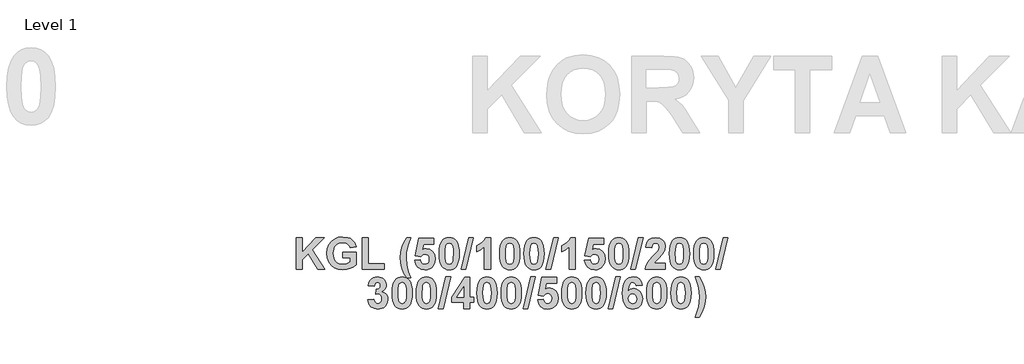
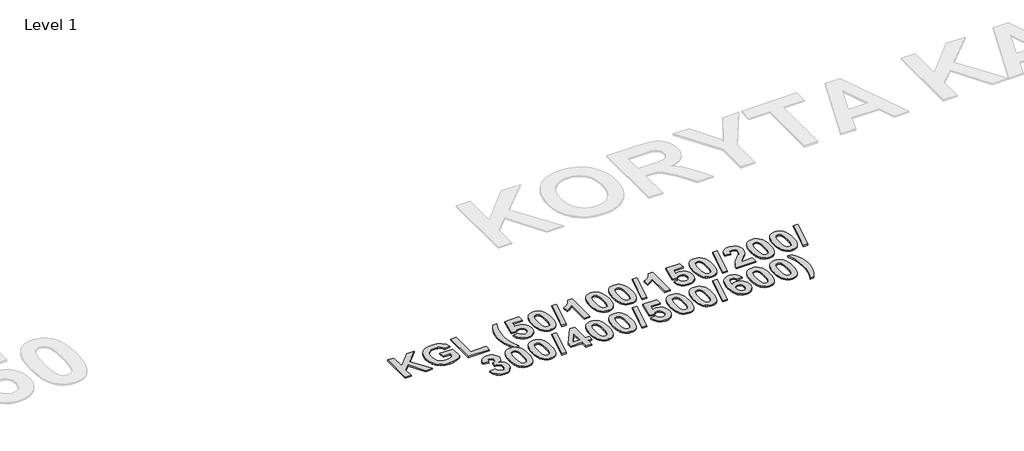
# One storey, part 25 of 42: 1 proxy.
"""IFC4 building model written with IfcOpenShell, lengths in millimetres."""

from ifc_helpers import new_model, si_unit, origin, origin_with_axes, place, context, project, spatial, polyline, outline, extrude, element, save

model = new_model("IFC4")

# Units and contexts
model_context = context("Model", 3, world=origin())
ifc_project = project(units=[si_unit("LENGTHUNIT", "METRE", prefix="MILLI")], contexts=[model_context])

# Site, building, storey
site = spatial("IfcSite", under=ifc_project)
building = spatial("IfcBuilding", under=site)
storey = spatial("IfcBuildingStorey", under=building, Name="Level 1", Elevation=0.0)

# Proxy
placement = place(None, origin())
element("IfcBuildingElementProxy", 1, Name="300mm Arial 2", ObjectType="300mm Arial 2", at=placement, inside=storey, context=model_context, shape_type="SweptSolid", body=[
    extrude(outline(polyline([(-16754.0265891, 21266.2760859), (-16754.0265891, 21521.3409359), (-16705.4428082, 21521.3409359), (-16705.4428082, 21405.0688143), (-16596.0027808, 21521.3409359), (-16529.3266022, 21521.3409359), (-16625.8615628, 21423.9203335), (-16525.2779538, 21266.2760859), (-16582.0855519, 21266.2760859), (-16657.4283684, 21391.9739671), (-16705.4428082, 21343.4534463), (-16705.4428082, 21266.2760859), (-16754.0265891, 21266.2760859)])), origin_with_axes(), (0.0, 0.0, 1.0), 10.0),
    extrude(outline(polyline([(-16381.5509352, 21359.3949994), (-16381.5509352, 21403.930132), (-16272.237428, 21403.930132), (-16272.237428, 21302.2078406), (-16291.7531786, 21287.2863571), (-16318.417324, 21274.2784926), (-16348.8454472, 21265.2402013), (-16379.6531312, 21262.2274375), (-16416.4863428, 21266.4184212), (-16448.2903739, 21278.9913724), (-16473.9423572, 21299.3532272), (-16492.3194253, 21326.9109219), (-16503.3741333, 21359.434537), (-16507.059036, 21394.6941528), (-16502.8917748, 21432.2153182), (-16490.3899913, 21465.3240895), (-16469.8541712, 21492.6287438), (-16441.5847999, 21512.737558), (-16414.0982728, 21522.2265778), (-16380.6020332, 21525.3895843), (-16338.399618, 21520.2813287), (-16321.1829779, 21513.8960092), (-16306.5560493, 21504.9565619), (-16284.6443213, 21480.6172263), (-16272.237428, 21448.4652645), (-16320.821209, 21440.3679677), (-16328.997581, 21457.1714401), (-16342.1398733, 21470.0053393), (-16359.7103748, 21478.1421737), (-16381.1713744, 21480.8544518), (-16412.9754055, 21475.5564158), (-16426.1611891, 21468.9338708), (-16437.5361515, 21459.6623078), (-16446.6970093, 21447.7812643), (-16453.2404791, 21433.330278), (-16458.475255, 21396.718477), (-16453.2721092, 21357.3627677), (-16446.7681769, 21341.9015962), (-16437.6626718, 21329.2515468), (-16426.4458597, 21319.4126195), (-16413.6080068, 21312.3848142), (-16383.0691783, 21306.7625701), (-16349.6361989, 21312.9304329), (-16320.821209, 21327.891454), (-16320.821209, 21359.3949994), (-16381.5509352, 21359.3949994)])), origin_with_axes(), (0.0, 0.0, 1.0), 10.0),
    extrude(outline(polyline([(-16223.6536471, 21266.2760859), (-16223.6536471, 21521.3409359), (-16175.0698661, 21521.3409359), (-16175.0698661, 21310.8112185), (-16045.5131169, 21310.8112185), (-16045.5131169, 21266.2760859), (-16223.6536471, 21266.2760859)])), origin_with_axes(), (0.0, 0.0, 1.0), 10.0),
    extrude(outline(polyline([(-15834.9833995, 21197.4490629), (-15867.3725868, 21197.4490629), (-15890.0434364, 21237.1210729), (-15906.5622382, 21278.327141), (-15916.6443217, 21319.6280993), (-15920.0050161, 21359.5847798), (-15915.8931076, 21406.9824333), (-15903.557382, 21451.7547913), (-15887.3627883, 21488.0344767), (-15867.3725868, 21521.3409359), (-15834.9833995, 21521.3409359), (-15852.5459935, 21474.1014328), (-15863.608609, 21434.4847754), (-15869.4680786, 21397.6041188), (-15871.4212352, 21358.5726177), (-15866.7399855, 21301.92317), (-15853.8981788, 21246.8552256), (-15834.9833995, 21197.4490629)])), origin_with_axes(), (0.0, 0.0, 1.0), 10.0),
    extrude(outline(polyline([(-15802.5942122, 21338.0763351), (-15758.0590796, 21343.2004058), (-15753.915541, 21328.1286795), (-15745.6600939, 21316.5678904), (-15734.5579408, 21309.2139001), (-15721.8742845, 21306.7625701), (-15707.6802925, 21309.364143), (-15695.8427404, 21317.1688617), (-15687.8482413, 21330.2083563), (-15685.1834082, 21348.5142568), (-15687.6584609, 21365.6735675), (-15695.0836188, 21377.9302179), (-15706.47835, 21385.2842082), (-15720.8621224, 21387.7355383), (-15739.6820115, 21382.6747278), (-15756.4143162, 21367.4922962), (-15798.5455638, 21373.7550493), (-15770.2050249, 21517.2922875), (-15648.7455725, 21517.2922875), (-15648.7455725, 21468.7085066), (-15730.9204833, 21468.7085066), (-15740.7258036, 21422.3388302), (-15725.2428865, 21429.7877107), (-15709.4120386, 21432.2706708), (-15681.2929101, 21426.5219064), (-15657.7917713, 21409.2756131), (-15641.8976633, 21382.8566007), (-15636.5996273, 21349.589679), (-15641.0120214, 21320.6639839), (-15654.2492039, 21294.9961856), (-15667.4666177, 21280.6598583), (-15683.0167487, 21270.4196245), (-15700.8995971, 21264.2754843), (-15721.1151629, 21262.2274375), (-15752.1205348, 21267.3673232), (-15776.8157086, 21282.7869802), (-15794.0303719, 21306.8890903), (-15802.5942122, 21338.0763351)])), origin_with_axes(), (0.0, 0.0, 1.0), 10.0),
    extrude(outline(polyline([(-15527.2861201, 21521.3409359), (-15510.1544858, 21519.6961725), (-15495.0076381, 21514.7618822), (-15481.845577, 21506.5380652), (-15470.6683025, 21495.0247212), (-15460.0129241, 21476.8967398), (-15452.4019395, 21453.6367802), (-15447.8353488, 21425.2448425), (-15446.3131519, 21391.7209266), (-15447.8432563, 21358.2286407), (-15452.4335696, 21329.8050729), (-15460.0840917, 21306.4502232), (-15470.7948228, 21288.1640914), (-15481.9167446, 21276.8168053), (-15495.0392681, 21268.711601), (-15510.1623933, 21263.8484784), (-15527.2861201, 21262.2274375), (-15544.5936967, 21264.0066287), (-15560.1418509, 21269.3442023), (-15573.9305827, 21278.2401583), (-15585.9598921, 21290.6944967), (-15595.7157904, 21307.7154258), (-15602.6842893, 21330.311154), (-15606.8653886, 21358.4816813), (-15608.2590884, 21392.2270076), (-15606.728984, 21425.5532356), (-15602.1386707, 21453.8581907), (-15594.4881485, 21477.1418728), (-15583.7774175, 21495.404282), (-15572.6554957, 21506.7515681), (-15559.5329721, 21514.8567724), (-15544.409847, 21519.7198951), (-15527.2861201, 21521.3409359)]), holes=[polyline([(-15527.2861201, 21476.8058034), (-15543.4807138, 21471.4603223), (-15549.8067269, 21463.9877192), (-15554.4879767, 21452.2608724), (-15558.3784747, 21428.1113172), (-15559.6753074, 21391.7209266), (-15558.52081, 21355.8128945), (-15555.0573178, 21333.2369351), (-15549.8304495, 21319.9839375), (-15543.3858236, 21312.044791), (-15527.2861201, 21306.7625701), (-15511.0915265, 21312.1080512), (-15504.7655133, 21319.5806542), (-15500.0842636, 21331.3075011), (-15496.1937655, 21355.330536), (-15494.8969328, 21391.7209266), (-15496.0514302, 21427.5894211), (-15499.5149224, 21450.173288), (-15504.7417908, 21463.4658232), (-15511.1864167, 21471.4603223), (-15527.2861201, 21476.8058034)])]), origin_with_axes(), (0.0, 0.0, 1.0), 10.0),
    extrude(outline(polyline([(-15431.0042001, 21266.2760859), (-15370.2744739, 21521.3409359), (-15332.9509963, 21521.3409359), (-15393.6807225, 21266.2760859), (-15431.0042001, 21266.2760859)])), origin_with_axes(), (0.0, 0.0, 1.0), 10.0),
    extrude(outline(polyline([(-15195.2969503, 21266.2760859), (-15243.8807313, 21266.2760859), (-15243.8807313, 21448.5917848), (-15271.9365996, 21424.7110851), (-15304.6104574, 21407.9787804), (-15304.6104574, 21456.5625613), (-15285.142152, 21465.6482977), (-15264.0607132, 21480.3800008), (-15245.6045698, 21499.3975778), (-15234.0121508, 21521.3409359), (-15195.2969503, 21521.3409359), (-15195.2969503, 21266.2760859)])), origin_with_axes(), (0.0, 0.0, 1.0), 10.0),
    extrude(outline(polyline([(-15041.4483106, 21521.3409359), (-15024.3166763, 21519.6961725), (-15009.1698286, 21514.7618822), (-14996.0077675, 21506.5380652), (-14984.830493, 21495.0247212), (-14974.1751146, 21476.8967398), (-14966.56413, 21453.6367802), (-14961.9975393, 21425.2448425), (-14960.4753424, 21391.7209266), (-14962.0054468, 21358.2286407), (-14966.5957601, 21329.8050729), (-14974.2462822, 21306.4502232), (-14984.9570133, 21288.1640914), (-14996.0789351, 21276.8168053), (-15009.2014586, 21268.711601), (-15024.3245838, 21263.8484784), (-15041.4483106, 21262.2274375), (-15058.7558872, 21264.0066287), (-15074.3040414, 21269.3442023), (-15088.0927732, 21278.2401583), (-15100.1220825, 21290.6944967), (-15109.8779809, 21307.7154258), (-15116.8464798, 21330.311154), (-15121.0275791, 21358.4816813), (-15122.4212789, 21392.2270076), (-15120.8911745, 21425.5532356), (-15116.3008612, 21453.8581907), (-15108.650339, 21477.1418728), (-15097.939608, 21495.404282), (-15086.8176862, 21506.7515681), (-15073.6951626, 21514.8567724), (-15058.5720375, 21519.7198951), (-15041.4483106, 21521.3409359)]), holes=[polyline([(-15041.4483106, 21476.8058034), (-15057.6429043, 21471.4603223), (-15063.9689174, 21463.9877192), (-15068.6501672, 21452.2608724), (-15072.5406652, 21428.1113172), (-15073.8374979, 21391.7209266), (-15072.6830005, 21355.8128945), (-15069.2195083, 21333.2369351), (-15063.99264, 21319.9839375), (-15057.5480141, 21312.044791), (-15041.4483106, 21306.7625701), (-15025.253717, 21312.1080512), (-15018.9277038, 21319.5806542), (-15014.2464541, 21331.3075011), (-15010.355956, 21355.330536), (-15009.0591233, 21391.7209266), (-15010.2136207, 21427.5894211), (-15013.6771129, 21450.173288), (-15018.9039813, 21463.4658232), (-15025.3486072, 21471.4603223), (-15041.4483106, 21476.8058034)])]), origin_with_axes(), (0.0, 0.0, 1.0), 10.0),
    extrude(outline(polyline([(-14847.1131868, 21521.3409359), (-14829.9815525, 21519.6961725), (-14814.8347048, 21514.7618822), (-14801.6726437, 21506.5380652), (-14790.4953692, 21495.0247212), (-14779.8399908, 21476.8967398), (-14772.2290062, 21453.6367802), (-14767.6624155, 21425.2448425), (-14766.1402186, 21391.7209266), (-14767.670323, 21358.2286407), (-14772.2606363, 21329.8050729), (-14779.9111584, 21306.4502232), (-14790.6218894, 21288.1640914), (-14801.7438113, 21276.8168053), (-14814.8663348, 21268.711601), (-14829.98946, 21263.8484784), (-14847.1131868, 21262.2274375), (-14864.4207634, 21264.0066287), (-14879.9689176, 21269.3442023), (-14893.7576494, 21278.2401583), (-14905.7869587, 21290.6944967), (-14915.5428571, 21307.7154258), (-14922.511356, 21330.311154), (-14926.6924553, 21358.4816813), (-14928.0861551, 21392.2270076), (-14926.5560507, 21425.5532356), (-14921.9657374, 21453.8581907), (-14914.3152152, 21477.1418728), (-14903.6044842, 21495.404282), (-14892.4825624, 21506.7515681), (-14879.3600388, 21514.8567724), (-14864.2369137, 21519.7198951), (-14847.1131868, 21521.3409359)]), holes=[polyline([(-14847.1131868, 21476.8058034), (-14863.3077805, 21471.4603223), (-14869.6337936, 21463.9877192), (-14874.3150434, 21452.2608724), (-14878.2055414, 21428.1113172), (-14879.5023741, 21391.7209266), (-14878.3478767, 21355.8128945), (-14874.8843845, 21333.2369351), (-14869.6575162, 21319.9839375), (-14863.2128903, 21312.044791), (-14847.1131868, 21306.7625701), (-14830.9185932, 21312.1080512), (-14824.59258, 21319.5806542), (-14819.9113303, 21331.3075011), (-14816.0208322, 21355.330536), (-14814.7239995, 21391.7209266), (-14815.8784969, 21427.5894211), (-14819.3419891, 21450.173288), (-14824.5688575, 21463.4658232), (-14831.0134834, 21471.4603223), (-14847.1131868, 21476.8058034)])]), origin_with_axes(), (0.0, 0.0, 1.0), 10.0),
    extrude(outline(polyline([(-14750.8312668, 21266.2760859), (-14690.1015406, 21521.3409359), (-14652.778063, 21521.3409359), (-14713.5077892, 21266.2760859), (-14750.8312668, 21266.2760859)])), origin_with_axes(), (0.0, 0.0, 1.0), 10.0),
    extrude(outline(polyline([(-14515.124017, 21266.2760859), (-14563.707798, 21266.2760859), (-14563.707798, 21448.5917848), (-14591.7636662, 21424.7110851), (-14624.4375241, 21407.9787804), (-14624.4375241, 21456.5625613), (-14604.9692187, 21465.6482977), (-14583.8877799, 21480.3800008), (-14565.4316365, 21499.3975778), (-14553.8392174, 21521.3409359), (-14515.124017, 21521.3409359), (-14515.124017, 21266.2760859)])), origin_with_axes(), (0.0, 0.0, 1.0), 10.0),
    extrude(outline(polyline([(-14442.2483456, 21338.0763351), (-14397.713213, 21343.2004058), (-14393.5696744, 21328.1286795), (-14385.3142273, 21316.5678904), (-14374.2120742, 21309.2139001), (-14361.5284179, 21306.7625701), (-14347.3344259, 21309.364143), (-14335.4968738, 21317.1688617), (-14327.5023747, 21330.2083563), (-14324.8375416, 21348.5142568), (-14327.3125943, 21365.6735675), (-14334.7377522, 21377.9302179), (-14346.1324834, 21385.2842082), (-14360.5162557, 21387.7355383), (-14379.3361449, 21382.6747278), (-14396.0684496, 21367.4922962), (-14438.1996972, 21373.7550493), (-14409.8591583, 21517.2922875), (-14288.3997059, 21517.2922875), (-14288.3997059, 21468.7085066), (-14370.5746166, 21468.7085066), (-14380.379937, 21422.3388302), (-14364.8970199, 21429.7877107), (-14349.066172, 21432.2706708), (-14320.9470435, 21426.5219064), (-14297.4459047, 21409.2756131), (-14281.5517967, 21382.8566007), (-14276.2537607, 21349.589679), (-14280.6661548, 21320.6639839), (-14293.9033373, 21294.9961856), (-14307.1207511, 21280.6598583), (-14322.6708821, 21270.4196245), (-14340.5537305, 21264.2754843), (-14360.7692963, 21262.2274375), (-14391.7746682, 21267.3673232), (-14416.469842, 21282.7869802), (-14433.6845053, 21306.8890903), (-14442.2483456, 21338.0763351)])), origin_with_axes(), (0.0, 0.0, 1.0), 10.0),
    extrude(outline(polyline([(-14166.9402535, 21521.3409359), (-14149.8086192, 21519.6961725), (-14134.6617715, 21514.7618822), (-14121.4997104, 21506.5380652), (-14110.3224359, 21495.0247212), (-14099.6670575, 21476.8967398), (-14092.0560729, 21453.6367802), (-14087.4894822, 21425.2448425), (-14085.9672853, 21391.7209266), (-14087.4973897, 21358.2286407), (-14092.087703, 21329.8050729), (-14099.7382251, 21306.4502232), (-14110.4489561, 21288.1640914), (-14121.570878, 21276.8168053), (-14134.6934015, 21268.711601), (-14149.8165267, 21263.8484784), (-14166.9402535, 21262.2274375), (-14184.2478301, 21264.0066287), (-14199.7959843, 21269.3442023), (-14213.5847161, 21278.2401583), (-14225.6140254, 21290.6944967), (-14235.3699238, 21307.7154258), (-14242.3384227, 21330.311154), (-14246.519522, 21358.4816813), (-14247.9132218, 21392.2270076), (-14246.3831173, 21425.5532356), (-14241.7928041, 21453.8581907), (-14234.1422819, 21477.1418728), (-14223.4315509, 21495.404282), (-14212.309629, 21506.7515681), (-14199.1871055, 21514.8567724), (-14184.0639804, 21519.7198951), (-14166.9402535, 21521.3409359)]), holes=[polyline([(-14166.9402535, 21476.8058034), (-14183.1348472, 21471.4603223), (-14189.4608603, 21463.9877192), (-14194.14211, 21452.2608724), (-14198.0326081, 21428.1113172), (-14199.3294408, 21391.7209266), (-14198.1749434, 21355.8128945), (-14194.7114512, 21333.2369351), (-14189.4845829, 21319.9839375), (-14183.039957, 21312.044791), (-14166.9402535, 21306.7625701), (-14150.7456599, 21312.1080512), (-14144.4196467, 21319.5806542), (-14139.738397, 21331.3075011), (-14135.8478989, 21355.330536), (-14134.5510662, 21391.7209266), (-14135.7055636, 21427.5894211), (-14139.1690558, 21450.173288), (-14144.3959242, 21463.4658232), (-14150.8405501, 21471.4603223), (-14166.9402535, 21476.8058034)])]), origin_with_axes(), (0.0, 0.0, 1.0), 10.0),
    extrude(outline(polyline([(-14070.6583335, 21266.2760859), (-14009.9286073, 21521.3409359), (-13972.6051297, 21521.3409359), (-14033.3348559, 21266.2760859), (-14070.6583335, 21266.2760859)])), origin_with_axes(), (0.0, 0.0, 1.0), 10.0),
    extrude(outline(polyline([(-13794.4645996, 21314.8598669), (-13794.4645996, 21266.2760859), (-13956.4105361, 21266.2760859), (-13951.2390203, 21290.7814793), (-13940.9118039, 21313.942595), (-13921.728169, 21340.1243819), (-13889.9873981, 21373.6917891), (-13852.41088, 21414.4313138), (-13845.3890054, 21429.1392943), (-13843.0483805, 21443.6574945), (-13845.0173521, 21457.8040414), (-13850.9242669, 21468.2340556), (-13860.2946739, 21474.6628664), (-13872.654122, 21476.8058034), (-13884.9265875, 21474.6944965), (-13894.4156073, 21468.3605758), (-13900.8048805, 21457.13981), (-13903.7781067, 21440.3679677), (-13952.3618877, 21444.7961769), (-13943.7585098, 21479.9450874), (-13936.1356639, 21493.1842468), (-13926.2987135, 21503.5332089), (-13901.6747073, 21516.8890042), (-13871.5786998, 21521.3409359), (-13839.442553, 21516.3512931), (-13815.0241423, 21501.3823644), (-13799.6044853, 21478.9961854), (-13794.4645996, 21451.7547913), (-13800.0947513, 21419.6186446), (-13817.9341083, 21387.6722782), (-13848.1408211, 21355.7891719), (-13875.8803887, 21328.1444945), (-13884.9898477, 21314.8598669), (-13794.4645996, 21314.8598669)])), origin_with_axes(), (0.0, 0.0, 1.0), 10.0),
    extrude(outline(polyline([(-13681.102444, 21521.3409359), (-13663.9708097, 21519.6961725), (-13648.823962, 21514.7618822), (-13635.6619009, 21506.5380652), (-13624.4846264, 21495.0247212), (-13613.829248, 21476.8967398), (-13606.2182634, 21453.6367802), (-13601.6516727, 21425.2448425), (-13600.1294758, 21391.7209266), (-13601.6595802, 21358.2286407), (-13606.2498935, 21329.8050729), (-13613.9004156, 21306.4502232), (-13624.6111466, 21288.1640914), (-13635.7330685, 21276.8168053), (-13648.855592, 21268.711601), (-13663.9787172, 21263.8484784), (-13681.102444, 21262.2274375), (-13698.4100206, 21264.0066287), (-13713.9581748, 21269.3442023), (-13727.7469066, 21278.2401583), (-13739.7762159, 21290.6944967), (-13749.5321143, 21307.7154258), (-13756.5006132, 21330.311154), (-13760.6817125, 21358.4816813), (-13762.0754123, 21392.2270076), (-13760.5453078, 21425.5532356), (-13755.9549946, 21453.8581907), (-13748.3044724, 21477.1418728), (-13737.5937414, 21495.404282), (-13726.4718195, 21506.7515681), (-13713.349296, 21514.8567724), (-13698.2261709, 21519.7198951), (-13681.102444, 21521.3409359)]), holes=[polyline([(-13681.102444, 21476.8058034), (-13697.2970377, 21471.4603223), (-13703.6230508, 21463.9877192), (-13708.3043005, 21452.2608724), (-13712.1947986, 21428.1113172), (-13713.4916313, 21391.7209266), (-13712.3371339, 21355.8128945), (-13708.8736417, 21333.2369351), (-13703.6467734, 21319.9839375), (-13697.2021475, 21312.044791), (-13681.102444, 21306.7625701), (-13664.9078504, 21312.1080512), (-13658.5818372, 21319.5806542), (-13653.9005875, 21331.3075011), (-13650.0100894, 21355.330536), (-13648.7132567, 21391.7209266), (-13649.8677541, 21427.5894211), (-13653.3312463, 21450.173288), (-13658.5581147, 21463.4658232), (-13665.0027406, 21471.4603223), (-13681.102444, 21476.8058034)])]), origin_with_axes(), (0.0, 0.0, 1.0), 10.0),
    extrude(outline(polyline([(-13486.7673202, 21521.3409359), (-13469.6356859, 21519.6961725), (-13454.4888382, 21514.7618822), (-13441.3267771, 21506.5380652), (-13430.1495026, 21495.0247212), (-13419.4941242, 21476.8967398), (-13411.8831396, 21453.6367802), (-13407.3165489, 21425.2448425), (-13405.794352, 21391.7209266), (-13407.3244564, 21358.2286407), (-13411.9147697, 21329.8050729), (-13419.5652918, 21306.4502232), (-13430.2760228, 21288.1640914), (-13441.3979447, 21276.8168053), (-13454.5204682, 21268.711601), (-13469.6435934, 21263.8484784), (-13486.7673202, 21262.2274375), (-13504.0748968, 21264.0066287), (-13519.623051, 21269.3442023), (-13533.4117828, 21278.2401583), (-13545.4410921, 21290.6944967), (-13555.1969905, 21307.7154258), (-13562.1654894, 21330.311154), (-13566.3465887, 21358.4816813), (-13567.7402885, 21392.2270076), (-13566.210184, 21425.5532356), (-13561.6198708, 21453.8581907), (-13553.9693486, 21477.1418728), (-13543.2586176, 21495.404282), (-13532.1366957, 21506.7515681), (-13519.0141722, 21514.8567724), (-13503.8910471, 21519.7198951), (-13486.7673202, 21521.3409359)]), holes=[polyline([(-13486.7673202, 21476.8058034), (-13502.9619139, 21471.4603223), (-13509.287927, 21463.9877192), (-13513.9691767, 21452.2608724), (-13517.8596748, 21428.1113172), (-13519.1565075, 21391.7209266), (-13518.0020101, 21355.8128945), (-13514.5385179, 21333.2369351), (-13509.3116496, 21319.9839375), (-13502.8670237, 21312.044791), (-13486.7673202, 21306.7625701), (-13470.5727266, 21312.1080512), (-13464.2467134, 21319.5806542), (-13459.5654637, 21331.3075011), (-13455.6749656, 21355.330536), (-13454.3781329, 21391.7209266), (-13455.5326303, 21427.5894211), (-13458.9961225, 21450.173288), (-13464.2229909, 21463.4658232), (-13470.6676168, 21471.4603223), (-13486.7673202, 21476.8058034)])]), origin_with_axes(), (0.0, 0.0, 1.0), 10.0),
    extrude(outline(polyline([(-13390.4854002, 21266.2760859), (-13329.755674, 21521.3409359), (-13292.4321964, 21521.3409359), (-13353.1619226, 21266.2760859), (-13390.4854002, 21266.2760859)])), origin_with_axes(), (0.0, 0.0, 1.0), 10.0),
    extrude(outline(polyline([(-16179.1185146, 21022.7918795), (-16130.5347336, 21028.4220312), (-16126.7865708, 21012.7967787), (-16119.5907309, 21001.3466949), (-16109.7379654, 20994.3248203), (-16098.019026, 20991.9841955), (-16085.4460749, 20994.6648435), (-16075.0555983, 21002.7067877), (-16068.0811688, 21015.2876464), (-16065.756359, 21031.5850377), (-16067.8834809, 21047.0046948), (-16074.2648467, 21058.8501544), (-16083.7143288, 21066.3939251), (-16095.0457999, 21068.9085153), (-16114.34014, 21065.3026878), (-16110.1017111, 21105.346351), (-16096.2714649, 21107.0860046), (-16086.1577514, 21113.3171276), (-16079.966166, 21123.1857081), (-16077.9023042, 21135.8377344), (-16079.4442699, 21146.5840492), (-16084.0701671, 21154.910664), (-16091.2580995, 21160.2482376), (-16100.4861712, 21162.0274288), (-16109.8723932, 21159.963567), (-16117.7878171, 21153.7719816), (-16123.5523966, 21143.610823), (-16126.4860852, 21129.6382415), (-16175.0698661, 21136.9131566), (-16169.5108821, 21158.6509193), (-16161.6903483, 21175.5334668), (-16150.9677561, 21188.4464412), (-16136.7025964, 21198.2754841), (-16119.7093436, 21204.490792), (-16100.8024718, 21206.5625613), (-16070.1529381, 21200.8217044), (-16057.3664841, 21193.6456332), (-16046.2722385, 21183.5991336), (-16033.5569521, 21163.577302), (-16029.3185233, 21141.0883253), (-16031.5919343, 21125.1428184), (-16038.4121672, 21110.8974275), (-16049.7792221, 21098.3521527), (-16065.6930989, 21087.5069939), (-16045.8294176, 21079.9553157), (-16030.3939455, 21066.6627806), (-16020.4779199, 21048.799701), (-16017.1725781, 21027.5363893), (-16023.0320477, 20996.7682429), (-16040.6104568, 20970.8869416), (-16053.0470032, 20960.6328697), (-16066.9187639, 20953.3085326), (-16098.967928, 20947.4490629), (-16129.2299934, 20952.6601162), (-16153.846092, 20968.2932762), (-16171.0607553, 20992.3400337), (-16179.1185146, 21022.7918795)])), origin_with_axes(), (0.0, 0.0, 1.0), 10.0),
    extrude(outline(polyline([(-15903.8104225, 21206.5625613), (-15886.6787882, 21204.9177979), (-15871.5319404, 21199.9835076), (-15858.3698793, 21191.7596906), (-15847.1926049, 21180.2463466), (-15836.5372265, 21162.1183652), (-15828.9262419, 21138.8584056), (-15824.3596512, 21110.4664679), (-15822.8374542, 21076.942552), (-15824.3675587, 21043.4502661), (-15828.957872, 21015.0266983), (-15836.6083941, 20991.6718486), (-15847.3191251, 20973.3857168), (-15858.441047, 20962.0384307), (-15871.5635705, 20953.9332264), (-15886.6866957, 20949.0701038), (-15903.8104225, 20947.4490629), (-15921.1179991, 20949.2282541), (-15936.6661533, 20954.5658277), (-15950.454885, 20963.4617837), (-15962.4841944, 20975.9161221), (-15972.2400928, 20992.9370512), (-15979.2085917, 21015.5327794), (-15983.389691, 21043.7033067), (-15984.7833908, 21077.448633), (-15983.2532863, 21110.774861), (-15978.662973, 21139.0798161), (-15971.0124509, 21162.3634982), (-15960.3017199, 21180.6259074), (-15949.179798, 21191.9731935), (-15936.0572745, 21200.0783978), (-15920.9341493, 21204.9415205), (-15903.8104225, 21206.5625613)]), holes=[polyline([(-15903.8104225, 21162.0274288), (-15920.0050161, 21156.6819477), (-15926.3310293, 21149.2093446), (-15931.012279, 21137.4824978), (-15934.9027771, 21113.3329426), (-15936.1996098, 21076.942552), (-15935.0451124, 21041.0345199), (-15931.5816202, 21018.4585605), (-15926.3547518, 21005.2055629), (-15919.910126, 20997.2664164), (-15903.8104225, 20991.9841955), (-15887.6158288, 20997.3296766), (-15881.2898157, 21004.8022796), (-15876.608566, 21016.5291265), (-15872.7180679, 21040.5521614), (-15871.4212352, 21076.942552), (-15872.5757326, 21112.8110465), (-15876.0392248, 21135.3949134), (-15881.2660932, 21148.6874486), (-15887.710719, 21156.6819477), (-15903.8104225, 21162.0274288)])]), origin_with_axes(), (0.0, 0.0, 1.0), 10.0),
    extrude(outline(polyline([(-15709.4752987, 21206.5625613), (-15692.3436644, 21204.9177979), (-15677.1968166, 21199.9835076), (-15664.0347555, 21191.7596906), (-15652.8574811, 21180.2463466), (-15642.2021027, 21162.1183652), (-15634.5911181, 21138.8584056), (-15630.0245274, 21110.4664679), (-15628.5023304, 21076.942552), (-15630.0324349, 21043.4502661), (-15634.6227482, 21015.0266983), (-15642.2732703, 20991.6718486), (-15652.9840013, 20973.3857168), (-15664.1059232, 20962.0384307), (-15677.2284467, 20953.9332264), (-15692.3515719, 20949.0701038), (-15709.4752987, 20947.4490629), (-15726.7828753, 20949.2282541), (-15742.3310295, 20954.5658277), (-15756.1197612, 20963.4617837), (-15768.1490706, 20975.9161221), (-15777.904969, 20992.9370512), (-15784.8734679, 21015.5327794), (-15789.0545672, 21043.7033067), (-15790.4482669, 21077.448633), (-15788.9181625, 21110.774861), (-15784.3278492, 21139.0798161), (-15776.6773271, 21162.3634982), (-15765.9665961, 21180.6259074), (-15754.8446742, 21191.9731935), (-15741.7221507, 21200.0783978), (-15726.5990255, 21204.9415205), (-15709.4752987, 21206.5625613)]), holes=[polyline([(-15709.4752987, 21162.0274288), (-15725.6698923, 21156.6819477), (-15731.9959055, 21149.2093446), (-15736.6771552, 21137.4824978), (-15740.5676533, 21113.3329426), (-15741.864486, 21076.942552), (-15740.7099886, 21041.0345199), (-15737.2464964, 21018.4585605), (-15732.019628, 21005.2055629), (-15725.5750022, 20997.2664164), (-15709.4752987, 20991.9841955), (-15693.280705, 20997.3296766), (-15686.9546919, 21004.8022796), (-15682.2734422, 21016.5291265), (-15678.3829441, 21040.5521614), (-15677.0861114, 21076.942552), (-15678.2406088, 21112.8110465), (-15681.704101, 21135.3949134), (-15686.9309694, 21148.6874486), (-15693.3755952, 21156.6819477), (-15709.4752987, 21162.0274288)])]), origin_with_axes(), (0.0, 0.0, 1.0), 10.0),
    extrude(outline(polyline([(-15613.1933786, 20951.4977113), (-15552.4636525, 21206.5625613), (-15515.1401749, 21206.5625613), (-15575.8699011, 20951.4977113), (-15613.1933786, 20951.4977113)])), origin_with_axes(), (0.0, 0.0, 1.0), 10.0),
    extrude(outline(polyline([(-15409.8753162, 20951.4977113), (-15409.8753162, 21004.1301407), (-15507.0428781, 21004.1301407), (-15507.0428781, 21044.4268444), (-15403.4227828, 21202.5139129), (-15361.2915352, 21202.5139129), (-15361.2915352, 21044.6166248), (-15328.9023479, 21044.6166248), (-15328.9023479, 21004.1301407), (-15361.2915352, 21004.1301407), (-15361.2915352, 20951.4977113), (-15409.8753162, 20951.4977113)]), holes=[polyline([(-15409.8753162, 21044.6166248), (-15409.8753162, 21127.487397), (-15464.152509, 21044.6166248), (-15409.8753162, 21044.6166248)])]), origin_with_axes(), (0.0, 0.0, 1.0), 10.0),
    extrude(outline(polyline([(-15223.6374892, 21206.5625613), (-15206.5058548, 21204.9177979), (-15191.3590071, 21199.9835076), (-15178.196946, 21191.7596906), (-15167.0196716, 21180.2463466), (-15156.3642932, 21162.1183652), (-15148.7533086, 21138.8584056), (-15144.1867179, 21110.4664679), (-15142.6645209, 21076.942552), (-15144.1946254, 21043.4502661), (-15148.7849387, 21015.0266983), (-15156.4354608, 20991.6718486), (-15167.1461918, 20973.3857168), (-15178.2681137, 20962.0384307), (-15191.3906372, 20953.9332264), (-15206.5137624, 20949.0701038), (-15223.6374892, 20947.4490629), (-15240.9450658, 20949.2282541), (-15256.49322, 20954.5658277), (-15270.2819517, 20963.4617837), (-15282.3112611, 20975.9161221), (-15292.0671595, 20992.9370512), (-15299.0356584, 21015.5327794), (-15303.2167577, 21043.7033067), (-15304.6104574, 21077.448633), (-15303.080353, 21110.774861), (-15298.4900397, 21139.0798161), (-15290.8395176, 21162.3634982), (-15280.1287866, 21180.6259074), (-15269.0068647, 21191.9731935), (-15255.8843412, 21200.0783978), (-15240.761216, 21204.9415205), (-15223.6374892, 21206.5625613)]), holes=[polyline([(-15223.6374892, 21162.0274288), (-15239.8320828, 21156.6819477), (-15246.158096, 21149.2093446), (-15250.8393457, 21137.4824978), (-15254.7298438, 21113.3329426), (-15256.0266765, 21076.942552), (-15254.8721791, 21041.0345199), (-15251.4086869, 21018.4585605), (-15246.1818185, 21005.2055629), (-15239.7371926, 20997.2664164), (-15223.6374892, 20991.9841955), (-15207.4428955, 20997.3296766), (-15201.1168824, 21004.8022796), (-15196.4356327, 21016.5291265), (-15192.5451346, 21040.5521614), (-15191.2483019, 21076.942552), (-15192.4027993, 21112.8110465), (-15195.8662915, 21135.3949134), (-15201.0931599, 21148.6874486), (-15207.5377857, 21156.6819477), (-15223.6374892, 21162.0274288)])]), origin_with_axes(), (0.0, 0.0, 1.0), 10.0),
    extrude(outline(polyline([(-15029.3023654, 21206.5625613), (-15012.170731, 21204.9177979), (-14997.0238833, 21199.9835076), (-14983.8618222, 21191.7596906), (-14972.6845477, 21180.2463466), (-14962.0291694, 21162.1183652), (-14954.4181848, 21138.8584056), (-14949.8515941, 21110.4664679), (-14948.3293971, 21076.942552), (-14949.8595016, 21043.4502661), (-14954.4498149, 21015.0266983), (-14962.100337, 20991.6718486), (-14972.811068, 20973.3857168), (-14983.9329899, 20962.0384307), (-14997.0555134, 20953.9332264), (-15012.1786386, 20949.0701038), (-15029.3023654, 20947.4490629), (-15046.609942, 20949.2282541), (-15062.1580962, 20954.5658277), (-15075.9468279, 20963.4617837), (-15087.9761373, 20975.9161221), (-15097.7320357, 20992.9370512), (-15104.7005346, 21015.5327794), (-15108.8816339, 21043.7033067), (-15110.2753336, 21077.448633), (-15108.7452292, 21110.774861), (-15104.1549159, 21139.0798161), (-15096.5043938, 21162.3634982), (-15085.7936628, 21180.6259074), (-15074.6717409, 21191.9731935), (-15061.5492174, 21200.0783978), (-15046.4260922, 21204.9415205), (-15029.3023654, 21206.5625613)]), holes=[polyline([(-15029.3023654, 21162.0274288), (-15045.496959, 21156.6819477), (-15051.8229722, 21149.2093446), (-15056.5042219, 21137.4824978), (-15060.39472, 21113.3329426), (-15061.6915527, 21076.942552), (-15060.5370553, 21041.0345199), (-15057.0735631, 21018.4585605), (-15051.8466947, 21005.2055629), (-15045.4020688, 20997.2664164), (-15029.3023654, 20991.9841955), (-15013.1077717, 20997.3296766), (-15006.7817586, 21004.8022796), (-15002.1005089, 21016.5291265), (-14998.2100108, 21040.5521614), (-14996.9131781, 21076.942552), (-14998.0676755, 21112.8110465), (-15001.5311677, 21135.3949134), (-15006.758036, 21148.6874486), (-15013.2026619, 21156.6819477), (-15029.3023654, 21162.0274288)])]), origin_with_axes(), (0.0, 0.0, 1.0), 10.0),
    extrude(outline(polyline([(-14933.0204453, 20951.4977113), (-14872.2907191, 21206.5625613), (-14834.9672416, 21206.5625613), (-14895.6969678, 20951.4977113), (-14933.0204453, 20951.4977113)])), origin_with_axes(), (0.0, 0.0, 1.0), 10.0),
    extrude(outline(polyline([(-14818.7726479, 21023.2979605), (-14774.2375154, 21028.4220312), (-14770.0939768, 21013.3503049), (-14761.8385296, 21001.7895158), (-14750.7363766, 20994.4355255), (-14738.0527202, 20991.9841955), (-14723.8587282, 20994.5857684), (-14712.0211761, 21002.3904871), (-14704.026677, 21015.4299817), (-14701.361844, 21033.7358822), (-14703.8368966, 21050.8951929), (-14711.2620546, 21063.1518433), (-14722.6567857, 21070.5058336), (-14737.0405581, 21072.9571637), (-14755.8604472, 21067.8963532), (-14772.592752, 21052.7139216), (-14814.7239995, 21058.9766747), (-14786.3834606, 21202.5139129), (-14664.9240083, 21202.5139129), (-14664.9240083, 21153.930132), (-14747.098919, 21153.930132), (-14756.9042394, 21107.5604556), (-14741.4213222, 21115.0093361), (-14725.5904743, 21117.4922962), (-14697.4713459, 21111.7435318), (-14673.9702071, 21094.4972385), (-14658.076099, 21068.0782261), (-14652.778063, 21034.8113044), (-14657.1904572, 21005.8856093), (-14670.4276397, 20980.217811), (-14683.6450534, 20965.8814837), (-14699.1951845, 20955.6412499), (-14717.0780329, 20949.4971097), (-14737.2935986, 20947.4490629), (-14768.2989706, 20952.5889486), (-14792.9941444, 20968.0086056), (-14810.2088076, 20992.1107157), (-14818.7726479, 21023.2979605)])), origin_with_axes(), (0.0, 0.0, 1.0), 10.0),
    extrude(outline(polyline([(-14543.4645559, 21206.5625613), (-14526.3329215, 21204.9177979), (-14511.1860738, 21199.9835076), (-14498.0240127, 21191.7596906), (-14486.8467382, 21180.2463466), (-14476.1913599, 21162.1183652), (-14468.5803753, 21138.8584056), (-14464.0137846, 21110.4664679), (-14462.4915876, 21076.942552), (-14464.0216921, 21043.4502661), (-14468.6120054, 21015.0266983), (-14476.2625275, 20991.6718486), (-14486.9732585, 20973.3857168), (-14498.0951804, 20962.0384307), (-14511.2177039, 20953.9332264), (-14526.3408291, 20949.0701038), (-14543.4645559, 20947.4490629), (-14560.7721325, 20949.2282541), (-14576.3202867, 20954.5658277), (-14590.1090184, 20963.4617837), (-14602.1383278, 20975.9161221), (-14611.8942262, 20992.9370512), (-14618.8627251, 21015.5327794), (-14623.0438244, 21043.7033067), (-14624.4375241, 21077.448633), (-14622.9074197, 21110.774861), (-14618.3171064, 21139.0798161), (-14610.6665843, 21162.3634982), (-14599.9558533, 21180.6259074), (-14588.8339314, 21191.9731935), (-14575.7114079, 21200.0783978), (-14560.5882827, 21204.9415205), (-14543.4645559, 21206.5625613)]), holes=[polyline([(-14543.4645559, 21162.0274288), (-14559.6591495, 21156.6819477), (-14565.9851627, 21149.2093446), (-14570.6664124, 21137.4824978), (-14574.5569105, 21113.3329426), (-14575.8537432, 21076.942552), (-14574.6992458, 21041.0345199), (-14571.2357536, 21018.4585605), (-14566.0088852, 21005.2055629), (-14559.5642593, 20997.2664164), (-14543.4645559, 20991.9841955), (-14527.2699622, 20997.3296766), (-14520.9439491, 21004.8022796), (-14516.2626994, 21016.5291265), (-14512.3722013, 21040.5521614), (-14511.0753686, 21076.942552), (-14512.229866, 21112.8110465), (-14515.6933582, 21135.3949134), (-14520.9202265, 21148.6874486), (-14527.3648524, 21156.6819477), (-14543.4645559, 21162.0274288)])]), origin_with_axes(), (0.0, 0.0, 1.0), 10.0),
    extrude(outline(polyline([(-14349.1294321, 21206.5625613), (-14331.9977977, 21204.9177979), (-14316.85095, 21199.9835076), (-14303.6888889, 21191.7596906), (-14292.5116144, 21180.2463466), (-14281.8562361, 21162.1183652), (-14274.2452515, 21138.8584056), (-14269.6786608, 21110.4664679), (-14268.1564638, 21076.942552), (-14269.6865683, 21043.4502661), (-14274.2768816, 21015.0266983), (-14281.9274037, 20991.6718486), (-14292.6381347, 20973.3857168), (-14303.7600566, 20962.0384307), (-14316.8825801, 20953.9332264), (-14332.0057053, 20949.0701038), (-14349.1294321, 20947.4490629), (-14366.4370087, 20949.2282541), (-14381.9851629, 20954.5658277), (-14395.7738946, 20963.4617837), (-14407.803204, 20975.9161221), (-14417.5591024, 20992.9370512), (-14424.5276013, 21015.5327794), (-14428.7087006, 21043.7033067), (-14430.1024003, 21077.448633), (-14428.5722959, 21110.774861), (-14423.9819826, 21139.0798161), (-14416.3314605, 21162.3634982), (-14405.6207295, 21180.6259074), (-14394.4988076, 21191.9731935), (-14381.3762841, 21200.0783978), (-14366.2531589, 21204.9415205), (-14349.1294321, 21206.5625613)]), holes=[polyline([(-14349.1294321, 21162.0274288), (-14365.3240257, 21156.6819477), (-14371.6500389, 21149.2093446), (-14376.3312886, 21137.4824978), (-14380.2217867, 21113.3329426), (-14381.5186194, 21076.942552), (-14380.364122, 21041.0345199), (-14376.9006298, 21018.4585605), (-14371.6737614, 21005.2055629), (-14365.2291355, 20997.2664164), (-14349.1294321, 20991.9841955), (-14332.9348384, 20997.3296766), (-14326.6088253, 21004.8022796), (-14321.9275756, 21016.5291265), (-14318.0370775, 21040.5521614), (-14316.7402448, 21076.942552), (-14317.8947422, 21112.8110465), (-14321.3582344, 21135.3949134), (-14326.5851027, 21148.6874486), (-14333.0297286, 21156.6819477), (-14349.1294321, 21162.0274288)])]), origin_with_axes(), (0.0, 0.0, 1.0), 10.0),
    extrude(outline(polyline([(-14252.847512, 20951.4977113), (-14192.1177858, 21206.5625613), (-14154.7943083, 21206.5625613), (-14215.5240345, 20951.4977113), (-14252.847512, 20951.4977113)])), origin_with_axes(), (0.0, 0.0, 1.0), 10.0),
    extrude(outline(polyline([(-13980.7024265, 21138.8742207), (-14029.2862075, 21133.6868899), (-14032.2594337, 21146.2835636), (-14037.8895854, 21155.1004444), (-14045.891992, 21160.2956827), (-14055.981983, 21162.0274288), (-14069.5829112, 21158.6667343), (-14080.9064748, 21148.5846508), (-14089.209367, 21127.7483451), (-14093.7482814, 21092.1249835), (-14073.7264498, 21108.1139818), (-14049.3396692, 21113.4436478), (-14021.5131188, 21107.750236), (-13998.0040725, 21090.6700005), (-13981.9913517, 21064.5910113), (-13976.6537781, 21031.9013384), (-13982.1099645, 20997.4641043), (-13988.9301974, 20983.0744013), (-13998.4785235, 20970.570641), (-14010.1697865, 20960.4549506), (-14023.4188303, 20953.2294574), (-14054.5902601, 20947.4490629), (-14072.121224, 20949.3152368), (-14088.0232395, 20954.9137584), (-14102.2963067, 20964.2446278), (-14114.9404255, 20977.307845), (-14125.2913645, 20994.6213522), (-14132.6848923, 21016.7030918), (-14137.1210091, 21043.5530639), (-14138.5997146, 21075.1712683), (-14137.0557721, 21107.6237157), (-14132.4239443, 21135.205133), (-14124.7042314, 21157.9155202), (-14113.8966333, 21175.7548773), (-14100.6218901, 21189.2332391), (-14085.5007418, 21198.8606403), (-14068.5331884, 21204.6370811), (-14049.71923, 21206.5625613), (-14024.3993623, 21202.2292423), (-14003.8556347, 21189.2292853), (-13988.9895038, 21167.9738811), (-13980.7024265, 21138.8742207)]), holes=[polyline([(-14090.0159337, 21032.9767606), (-14087.3906382, 21015.5565019), (-14079.5147519, 21002.6435276), (-14068.2702635, 20994.6490285), (-14055.539162, 20991.9841955), (-14043.6462573, 20994.16667), (-14033.9041971, 21000.7140936), (-14027.4042186, 21012.2432526), (-14025.2375591, 21029.3709331), (-14027.5702764, 21047.1233075), (-14034.5684285, 21059.3878655), (-14045.0617028, 21066.5283528), (-14057.8797869, 21068.9085153), (-14070.3183103, 21066.6311506), (-14080.6850643, 21059.7990564), (-14087.6832163, 21048.538753), (-14090.0159337, 21032.9767606)])]), origin_with_axes(), (0.0, 0.0, 1.0), 10.0),
    extrude(outline(polyline([(-13863.2916226, 21206.5625613), (-13846.1599882, 21204.9177979), (-13831.0131405, 21199.9835076), (-13817.8510794, 21191.7596906), (-13806.6738049, 21180.2463466), (-13796.0184266, 21162.1183652), (-13788.407442, 21138.8584056), (-13783.8408512, 21110.4664679), (-13782.3186543, 21076.942552), (-13783.8487588, 21043.4502661), (-13788.4390721, 21015.0266983), (-13796.0895942, 20991.6718486), (-13806.8003252, 20973.3857168), (-13817.9222471, 20962.0384307), (-13831.0447706, 20953.9332264), (-13846.1678958, 20949.0701038), (-13863.2916226, 20947.4490629), (-13880.5991992, 20949.2282541), (-13896.1473534, 20954.5658277), (-13909.9360851, 20963.4617837), (-13921.9653945, 20975.9161221), (-13931.7212929, 20992.9370512), (-13938.6897918, 21015.5327794), (-13942.8708911, 21043.7033067), (-13944.2645908, 21077.448633), (-13942.7344864, 21110.774861), (-13938.1441731, 21139.0798161), (-13930.493651, 21162.3634982), (-13919.78292, 21180.6259074), (-13908.6609981, 21191.9731935), (-13895.5384746, 21200.0783978), (-13880.4153494, 21204.9415205), (-13863.2916226, 21206.5625613)]), holes=[polyline([(-13863.2916226, 21162.0274288), (-13879.4862162, 21156.6819477), (-13885.8122294, 21149.2093446), (-13890.4934791, 21137.4824978), (-13894.3839772, 21113.3329426), (-13895.6808099, 21076.942552), (-13894.5263125, 21041.0345199), (-13891.0628203, 21018.4585605), (-13885.8359519, 21005.2055629), (-13879.391326, 20997.2664164), (-13863.2916226, 20991.9841955), (-13847.0970289, 20997.3296766), (-13840.7710158, 21004.8022796), (-13836.0897661, 21016.5291265), (-13832.199268, 21040.5521614), (-13830.9024353, 21076.942552), (-13832.0569327, 21112.8110465), (-13835.5204249, 21135.3949134), (-13840.7472932, 21148.6874486), (-13847.1919191, 21156.6819477), (-13863.2916226, 21162.0274288)])]), origin_with_axes(), (0.0, 0.0, 1.0), 10.0),
    extrude(outline(polyline([(-13668.9564988, 21206.5625613), (-13651.8248644, 21204.9177979), (-13636.6780167, 21199.9835076), (-13623.5159556, 21191.7596906), (-13612.3386811, 21180.2463466), (-13601.6833028, 21162.1183652), (-13594.0723182, 21138.8584056), (-13589.5057274, 21110.4664679), (-13587.9835305, 21076.942552), (-13589.513635, 21043.4502661), (-13594.1039483, 21015.0266983), (-13601.7544704, 20991.6718486), (-13612.4652014, 20973.3857168), (-13623.5871233, 20962.0384307), (-13636.7096468, 20953.9332264), (-13651.832772, 20949.0701038), (-13668.9564988, 20947.4490629), (-13686.2640754, 20949.2282541), (-13701.8122296, 20954.5658277), (-13715.6009613, 20963.4617837), (-13727.6302707, 20975.9161221), (-13737.3861691, 20992.9370512), (-13744.354668, 21015.5327794), (-13748.5357673, 21043.7033067), (-13749.929467, 21077.448633), (-13748.3993626, 21110.774861), (-13743.8090493, 21139.0798161), (-13736.1585272, 21162.3634982), (-13725.4477962, 21180.6259074), (-13714.3258743, 21191.9731935), (-13701.2033508, 21200.0783978), (-13686.0802256, 21204.9415205), (-13668.9564988, 21206.5625613)]), holes=[polyline([(-13668.9564988, 21162.0274288), (-13685.1510924, 21156.6819477), (-13691.4771056, 21149.2093446), (-13696.1583553, 21137.4824978), (-13700.0488534, 21113.3329426), (-13701.3456861, 21076.942552), (-13700.1911887, 21041.0345199), (-13696.7276965, 21018.4585605), (-13691.5008281, 21005.2055629), (-13685.0562022, 20997.2664164), (-13668.9564988, 20991.9841955), (-13652.7619051, 20997.3296766), (-13646.435892, 21004.8022796), (-13641.7546423, 21016.5291265), (-13637.8641442, 21040.5521614), (-13636.5673115, 21076.942552), (-13637.7218089, 21112.8110465), (-13641.1853011, 21135.3949134), (-13646.4121694, 21148.6874486), (-13652.8567953, 21156.6819477), (-13668.9564988, 21162.0274288)])]), origin_with_axes(), (0.0, 0.0, 1.0), 10.0),
    extrude(outline(polyline([(-13555.5943432, 20882.6706883), (-13537.5968358, 20928.6608039), (-13527.9180357, 20965.5730906), (-13521.307352, 21005.2688231), (-13519.1565075, 21043.7942431), (-13521.1017566, 21082.8257442), (-13526.9375037, 21119.7064008), (-13537.9922117, 21159.3230582), (-13555.5943432, 21206.5625613), (-13523.2051559, 21206.5625613), (-13501.0087573, 21169.2232687), (-13484.3950653, 21129.7015016), (-13474.0283113, 21088.8038266), (-13470.5727266, 21047.3368105), (-13473.3403573, 21010.8357146), (-13481.6432496, 20971.8042135), (-13498.3597393, 20926.9369653), (-13523.2051559, 20882.6706883), (-13555.5943432, 20882.6706883)])), origin_with_axes(), (0.0, 0.0, 1.0), 10.0),
])

save(model, "model.ifc")
